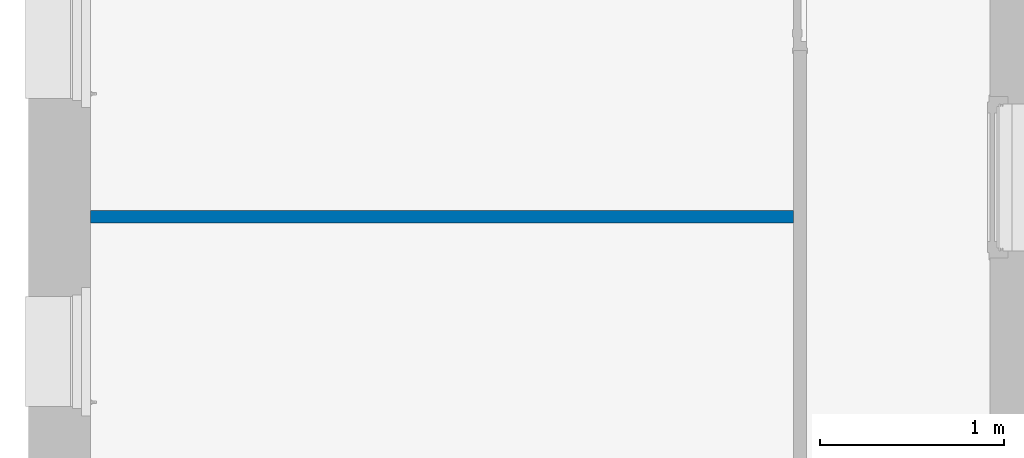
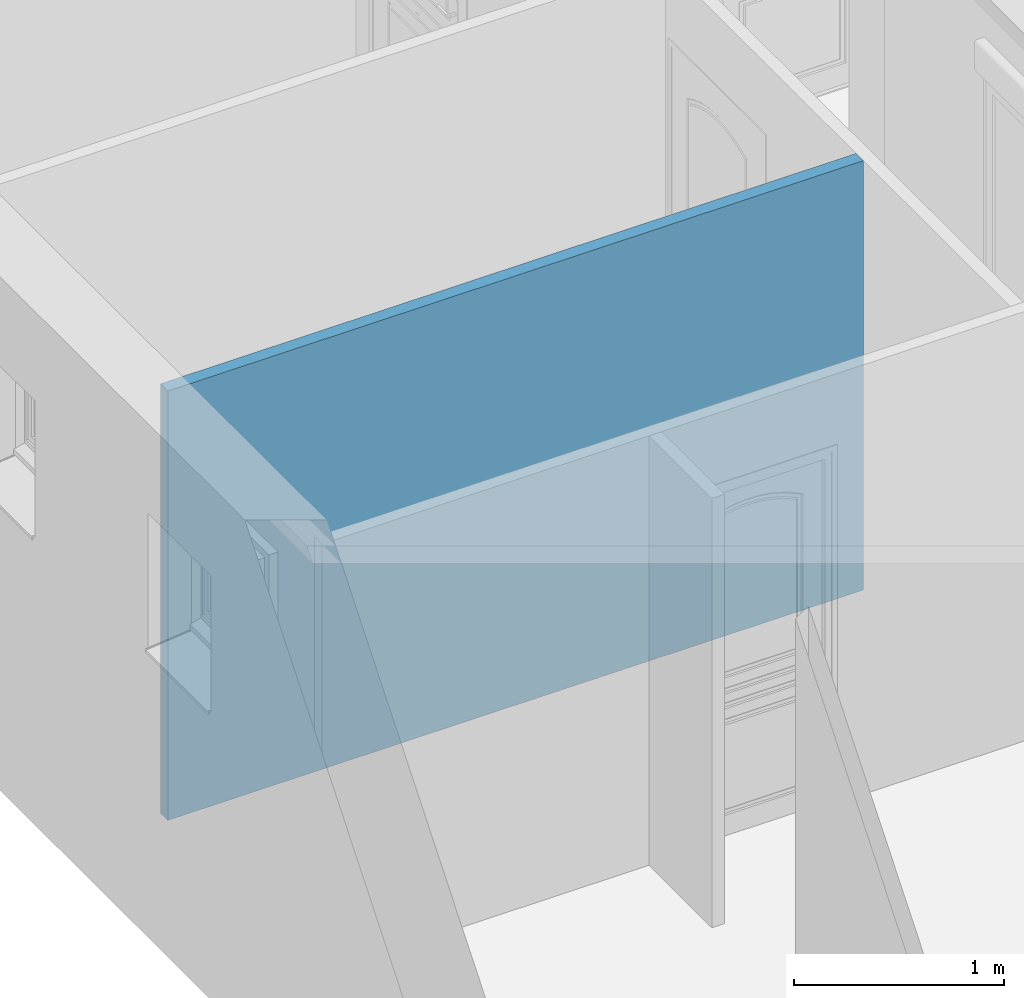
# One storey, part 6 of 23: 1 wall.
"""IFC2X3 building model written with IfcOpenShell, lengths in metres."""

import ifcopenshell
import ifcopenshell.guid

model = None  # the IFC model being written
_history = None  # IfcOwnerHistory: only IFC2X3 demands one
_inside = {}  # id of a spatial element -> (the spatial element, [elements in it])
_under = {}  # id of a project, library or spatial element -> (it, [spatial elements below it])
_declared = {}  # id of a project -> (the project, [libraries it declares])
_typed = {}  # id of a type object -> (the type object, [elements of that type])
_made_of = {}  # id of a material, layer set ... -> (it, [elements and type objects made of it])


def new_model(schema):
    """Start an empty IFC model of exactly this schema.

    Asked for "IFC4X3", IfcOpenShell would pick the latest addendum, in which some entities
    have other attributes; the version numbers below select the first issue.
    IFC2X3 requires an IfcOwnerHistory on every rooted entity: one is made here for all.
    """
    global model, _history
    if schema == "IFC4X3":
        model = ifcopenshell.file(schema_version=(4, 3, 0, 0))
    else:
        model = ifcopenshell.file(schema=schema)
    _inside.clear()
    _under.clear()
    _declared.clear()
    _typed.clear()
    _made_of.clear()
    _history = None
    if model.schema == "IFC2X3":
        org = make("IfcOrganization", Name="unknown")
        user = make(
            "IfcPersonAndOrganization",
            ThePerson=make("IfcPerson", FamilyName="unknown"),
            TheOrganization=org,
        )
        app = make(
            "IfcApplication",
            ApplicationDeveloper=org,
            Version="unknown",
            ApplicationFullName="unknown",
            ApplicationIdentifier="unknown",
        )
        _history = make(
            "IfcOwnerHistory",
            OwningUser=user,
            OwningApplication=app,
            ChangeAction="ADDED",
            CreationDate=0,
        )
    return model


def make(cls, **values):
    """One entity of the class cls with the attributes given. An attribute that is None is left unset."""
    return model.create_entity(
        cls, **{name: value for name, value in values.items() if value is not None}
    )


def entity(cls, *values):
    """Any entity or typed value of the class cls, its attributes in the order of the schema. None: left unset."""
    e = model.create_entity(cls)
    for i, value in enumerate(values):
        if value is not None:
            e[i] = value
    return e


def rooted(cls, **values):
    """An entity with a GlobalId (a new one), such as an element, a storey or a relation."""
    return make(cls, GlobalId=ifcopenshell.guid.new(), OwnerHistory=_history, **values)


def si_unit(unit_type, name, prefix=None):
    """IfcSIUnit, for example si_unit("LENGTHUNIT", "METRE", prefix="MILLI")."""
    return make("IfcSIUnit", UnitType=unit_type, Prefix=prefix, Name=name)


def converted_unit(unit_type, name, factor, base, dimensions=None, offset=None):
    """IfcConversionBasedUnit, such as the inch: factor (a typed value) times the base unit."""
    return make(
        "IfcConversionBasedUnit"
        if offset is None
        else "IfcConversionBasedUnitWithOffset",
        ConversionOffset=offset,
        Dimensions=None
        if dimensions is None
        else entity("IfcDimensionalExponents", *dimensions),
        UnitType=unit_type,
        Name=name,
        ConversionFactor=make(
            "IfcMeasureWithUnit", ValueComponent=factor, UnitComponent=base
        ),
    )


def derived_unit(unit_type, elements):
    """IfcDerivedUnit: a product of units, each with its exponent."""
    return make(
        "IfcDerivedUnit",
        Elements=[
            make("IfcDerivedUnitElement", Unit=unit, Exponent=power)
            for unit, power in elements
        ],
        UnitType=unit_type,
    )


def assignment(units):
    """IfcUnitAssignment: the units of a project."""
    return None if units is None else make("IfcUnitAssignment", Units=units)


def point(xyz):
    """IfcCartesianPoint."""
    return None if xyz is None else make("IfcCartesianPoint", Coordinates=xyz)


def direction(xyz):
    """IfcDirection."""
    return None if xyz is None else make("IfcDirection", DirectionRatios=xyz)


def frame(location, z_axis=None, x_axis=None):
    """IfcAxis2Placement3D, a coordinate frame: its origin and axes. An axis left out is left unset."""
    return make(
        "IfcAxis2Placement3D",
        Location=point(location),
        Axis=direction(z_axis),
        RefDirection=direction(x_axis),
    )


def frame_2d(location, x_axis=None):
    """IfcAxis2Placement2D, a coordinate frame in the plane: its origin and x axis."""
    return make(
        "IfcAxis2Placement2D", Location=point(location), RefDirection=direction(x_axis)
    )


def origin():
    """The frame at (0, 0, 0) with its axes left unset."""
    return frame((0.0, 0.0, 0.0))


def place(relative_to, where):
    """IfcLocalPlacement: puts the frame where relative to a parent placement (None: the world)."""
    return make(
        "IfcLocalPlacement", PlacementRelTo=relative_to, RelativePlacement=where
    )


def context(
    kind, dimensions, precision=None, world=None, true_north=None, identifier=None
):
    """IfcGeometricRepresentationContext, for example the 3D "Model" context."""
    return make(
        "IfcGeometricRepresentationContext",
        ContextIdentifier=identifier,
        ContextType=kind,
        CoordinateSpaceDimension=dimensions,
        Precision=precision,
        WorldCoordinateSystem=world,
        TrueNorth=true_north,
    )


def subcontext(parent, identifier, kind, view, scale=None):
    """IfcGeometricRepresentationSubContext, for example "Body" below "Model"."""
    return make(
        "IfcGeometricRepresentationSubContext",
        ContextIdentifier=identifier,
        ContextType=kind,
        ParentContext=parent,
        TargetScale=scale,
        TargetView=view,
    )


def project(units=None, contexts=None):
    """IfcProject with its units and contexts."""
    return rooted(
        "IfcProject",
        Name="project",
        RepresentationContexts=contexts,
        UnitsInContext=assignment(units),
    )


def spatial(cls, under=None, at=None, **own):
    """A site, building, storey or space (cls), placed at a placement, below another one or the project."""
    s = rooted(cls, ObjectPlacement=at, **own)
    if under is not None:
        _under.setdefault(under.id(), (under, []))[1].append(s)
    return s


def profile(cls, at=None, kind="AREA", **sizes):
    """A parametric profile (cls). Its sizes go by their IFC names, for example OverallWidth=200.0."""
    return make(cls, ProfileType=kind, Position=at, **sizes)


def rectangle(**sizes):
    """IfcRectangleProfileDef."""
    return profile("IfcRectangleProfileDef", **sizes)


def extrude(swept, where, along, depth):
    """IfcExtrudedAreaSolid: the profile swept, set in the frame where, extruded along a direction by depth."""
    return make(
        "IfcExtrudedAreaSolid",
        SweptArea=swept,
        Position=where,
        ExtrudedDirection=direction(along),
        Depth=depth,
    )


def shape(context_of_items, identifier, shape_type, items):
    """IfcShapeRepresentation: the items that make up one representation, for example the "Body"."""
    return make(
        "IfcShapeRepresentation",
        ContextOfItems=context_of_items,
        RepresentationIdentifier=identifier,
        RepresentationType=shape_type,
        Items=items,
    )


def material(Name=None, Category=None):
    """IfcMaterial."""
    return make("IfcMaterial", Name=Name, Category=Category)


def layer(
    of_material, thickness, ventilated=None, Name=None, Category=None, Priority=None
):
    """IfcMaterialLayer: one layer of a wall or slab, of a material (None: an air gap)."""
    return make(
        "IfcMaterialLayer",
        Material=of_material,
        LayerThickness=thickness,
        IsVentilated=ventilated,
        Name=Name,
        Category=Category,
        Priority=Priority,
    )


def layer_set(layers, Name=None):
    """IfcMaterialLayerSet."""
    return make("IfcMaterialLayerSet", MaterialLayers=layers, LayerSetName=Name)


def layer_usage(for_layer_set, set_direction, sense, offset, extent=None):
    """IfcMaterialLayerSetUsage: how a layer set lies in its element."""
    return make(
        "IfcMaterialLayerSetUsage",
        ForLayerSet=for_layer_set,
        LayerSetDirection=set_direction,
        DirectionSense=sense,
        OffsetFromReferenceLine=offset,
        ReferenceExtent=extent,
    )


def made_of(thing, what):
    """Note that an element or type object is made of a material, layer set ...; save() writes the relation."""
    if what is not None:
        _made_of.setdefault(what.id(), (what, []))[1].append(thing)
    return thing


def type_object(cls, material=None, **own):
    """A type object (cls), such as IfcWallType, which elements share."""
    return made_of(rooted(cls, **own), material)


def element(
    cls,
    number,
    at=None,
    inside=None,
    cuts=None,
    type_object=None,
    material=None,
    context=None,
    identifier="Body",
    shape_type=None,
    held_by="IfcProductDefinitionShape",
    body=None,
    shapes=None,
    **own,
):
    """One element of the class cls, such as IfcWall. Its Tag is "e" and its number.

    at: its placement. inside: the storey or other place that contains it. cuts: it is an
    opening in that element (IfcRelVoidsElement). A single representation is given by context,
    identifier, shape_type and body (its items); several are given by shapes. held_by: the class
    of the entity that holds the representations. save() writes the other relations.
    """
    e = rooted(cls, Tag="e%d" % number, ObjectPlacement=at, **own)
    if body is not None:
        shapes = [shape(context, identifier, shape_type, body)]
    if shapes is not None:
        e.Representation = make(held_by, Representations=shapes)
    if inside is not None:
        _inside.setdefault(inside.id(), (inside, []))[1].append(e)
    if cuts is not None:
        rooted(
            "IfcRelVoidsElement", RelatingBuildingElement=cuts, RelatedOpeningElement=e
        )
    if type_object is not None:
        _typed.setdefault(type_object.id(), (type_object, []))[1].append(e)
    return made_of(e, material)


def aggregate(whole, parts):
    """IfcRelAggregates: a whole, such as a stair, and the parts it consists of."""
    return rooted("IfcRelAggregates", RelatingObject=whole, RelatedObjects=parts)


def save(model, path):
    """Write the relations noted so far, then the file.

    IfcRelAggregates (storeys below a building ...), IfcRelContainedInSpatialStructure (elements
    in a storey), IfcRelDefinesByType, IfcRelAssociatesMaterial and IfcRelDeclares: one each for
    every whole, place, type object, material and project.
    """
    for whole, parts in _under.values():
        aggregate(whole, parts)
    for where, things in _inside.values():
        rooted(
            "IfcRelContainedInSpatialStructure",
            RelatedElements=things,
            RelatingStructure=where,
        )
    for kind, things in _typed.values():
        rooted("IfcRelDefinesByType", RelatedObjects=things, RelatingType=kind)
    for what, things in _made_of.values():
        rooted("IfcRelAssociatesMaterial", RelatedObjects=things, RelatingMaterial=what)
    for by, libraries in _declared.values():
        rooted("IfcRelDeclares", RelatingContext=by, RelatedDefinitions=libraries)
    model.write(path)


model = new_model("IFC2X3")

# Units and contexts
model_context = context("Model", 3, precision=1e-05, world=origin(), true_north=direction((6.12303176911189e-17, 1.0)))
body_context = subcontext(model_context, "Body", "Model", "MODEL_VIEW")
ifc_project = project(units=[si_unit("LENGTHUNIT", "METRE"), si_unit("AREAUNIT", "SQUARE_METRE"), si_unit("VOLUMEUNIT", "CUBIC_METRE"), converted_unit("PLANEANGLEUNIT", "DEGREE", entity("IfcRatioMeasure", 0.0174532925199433), si_unit("PLANEANGLEUNIT", "RADIAN"), dimensions=[0, 0, 0, 0, 0, 0, 0]), si_unit("MASSUNIT", "GRAM", prefix="KILO"), derived_unit("MASSDENSITYUNIT", [(si_unit("MASSUNIT", "GRAM", prefix="KILO"), 1), (si_unit("LENGTHUNIT", "METRE"), -3)]), si_unit("TIMEUNIT", "SECOND"), si_unit("FREQUENCYUNIT", "HERTZ"), si_unit("THERMODYNAMICTEMPERATUREUNIT", "DEGREE_CELSIUS"), derived_unit("THERMALTRANSMITTANCEUNIT", [(si_unit("MASSUNIT", "GRAM", prefix="KILO"), 1), (si_unit("THERMODYNAMICTEMPERATUREUNIT", "KELVIN"), -1), (si_unit("TIMEUNIT", "SECOND"), -3)]), derived_unit("VOLUMETRICFLOWRATEUNIT", [(si_unit("LENGTHUNIT", "METRE"), 3), (si_unit("TIMEUNIT", "SECOND"), -1)]), si_unit("ELECTRICCURRENTUNIT", "AMPERE"), si_unit("ELECTRICVOLTAGEUNIT", "VOLT"), si_unit("POWERUNIT", "WATT"), si_unit("FORCEUNIT", "NEWTON", prefix="KILO"), si_unit("ILLUMINANCEUNIT", "LUX"), si_unit("LUMINOUSFLUXUNIT", "LUMEN"), si_unit("LUMINOUSINTENSITYUNIT", "CANDELA"), derived_unit("USERDEFINED", [(si_unit("MASSUNIT", "GRAM", prefix="KILO"), -1), (si_unit("LENGTHUNIT", "METRE"), -2), (si_unit("TIMEUNIT", "SECOND"), 3), (si_unit("LUMINOUSFLUXUNIT", "LUMEN"), 1)]), derived_unit("LINEARVELOCITYUNIT", [(si_unit("LENGTHUNIT", "METRE"), 1), (si_unit("TIMEUNIT", "SECOND"), -1)]), si_unit("PRESSUREUNIT", "PASCAL"), derived_unit("USERDEFINED", [(si_unit("LENGTHUNIT", "METRE"), -2), (si_unit("MASSUNIT", "GRAM", prefix="KILO"), 1), (si_unit("TIMEUNIT", "SECOND"), -2)])], contexts=[model_context])

# Site, building, storey
site_placement = place(None, origin())
site = spatial("IfcSite", under=ifc_project, at=site_placement, Name="Default", CompositionType="ELEMENT")
building_placement = place(site_placement, origin())
building = spatial("IfcBuilding", under=site, at=building_placement, CompositionType="ELEMENT")
storey_placement = place(building_placement, origin())
storey = spatial("IfcBuildingStorey", under=building, at=storey_placement, Name="2 - Rez de Chaussée", CompositionType="ELEMENT", Elevation=-1.94916083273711e-14)

# Wall
ifc_material = material(Name="Mur par défaut")
ifc_layer = layer(ifc_material, 0.07)
ifc_layer_set = layer_set([ifc_layer], Name="Mur de base:Cloison distributive Placostil® 72/48 - 1x Placoplatre® BA 13 avec M 48 - EI30 - 33dB - max 3,45m")
ifc_layer_usage = layer_usage(ifc_layer_set, "AXIS2", "NEGATIVE", 0.035)
wall_type = type_object("IfcWallType", Name="Mur de base:Cloison distributive Placostil® 72/48 - 1x Placoplatre® BA 13 avec M 48 - EI30 - 33dB - max 3,45m", PredefinedType="STANDARD", material=ifc_layer_set)
wall_placement = place(storey_placement, frame((-9.59622246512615, -1.32694499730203, 0.0)))
element("IfcWallStandardCase", 1, at=wall_placement, inside=storey, type_object=wall_type, material=ifc_layer_usage, Name="Mur de base:Cloison distributive Placostil® 72/48 - 1x Placoplatre® BA 13 avec M 48 - EI30 - 33dB - max 3,45m", ObjectType="Mur de base:Cloison distributive Placostil® 72/48 - 1x Placoplatre® BA 13 avec M 48 - EI30 - 33dB - max 3,45m", context=body_context, shape_type="SweptSolid", body=[
    extrude(rectangle(XDim=3.83000000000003, YDim=0.0699999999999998, at=frame_2d((1.91500000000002, -4.16333634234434e-17), x_axis=(-1.0, 0.0))), origin(), (0.0, 0.0, 1.0), 2.50000000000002),
])

save(model, "model.ifc")
